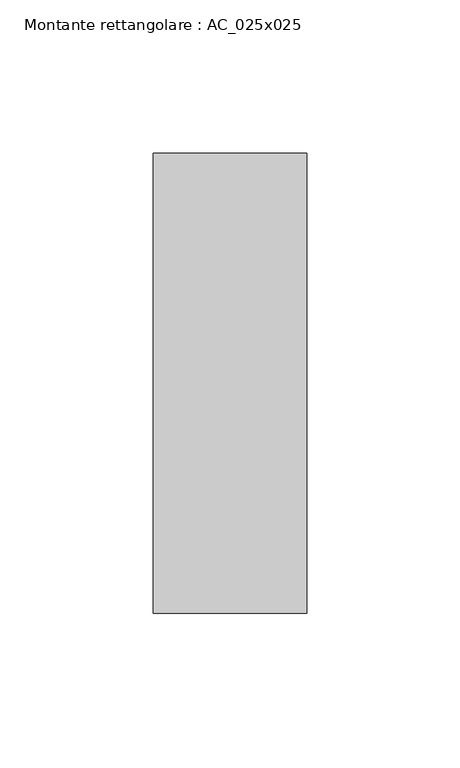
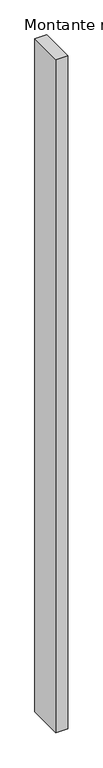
"""IFC4 building model written with IfcOpenShell, lengths in millimetres: member geometry, Montante rettangolare : AC_025x025."""

from ifc_helpers import new_model, si_unit, frame, origin, place, context, project, spatial, polyline, outline, extrude, source, transform, mapped, element, save


def montante_rettangolare_ac_025x025_d0ddf7e4(model_context):
    return source(origin(), model_context, "Body", "SweptSolid", [
        extrude(outline(polyline([(25.0, 75.0), (25.0, -75.0), (-25.0, -75.0), (-25.0, 75.0), (25.0, 75.0)])), frame((0.0, 0.0, -2962.0), z_axis=(0.0, 0.0, 1.0), x_axis=(1.0, 0.0, 0.0)), (0.0, 0.0, 1.0), 2962.0),
    ])


if __name__ == "__main__":
    model = new_model("IFC4")
    model_context = context("Model", 3, world=origin())
    ifc_project = project(units=[si_unit("LENGTHUNIT", "METRE", prefix="MILLI")], contexts=[model_context])
    site = spatial("IfcSite", under=ifc_project)
    building = spatial("IfcBuilding", under=site)
    placement = place(None, origin())
    montante_rettangolare_ac_025x025_shape = montante_rettangolare_ac_025x025_d0ddf7e4(model_context)
    element("IfcMember", 1, ObjectType="Montante rettangolare : AC_025x025", at=placement, inside=building, context=model_context, shape_type="MappedRepresentation", body=[
        mapped(montante_rettangolare_ac_025x025_shape, transform((0.0, 0.0, 0.0), x_axis=(1.0, 0.0, 0.0), y_axis=(0.0, 1.0, 0.0), z_axis=(0.0, 0.0, 1.0))),
    ])
    save(model, "model.ifc")
